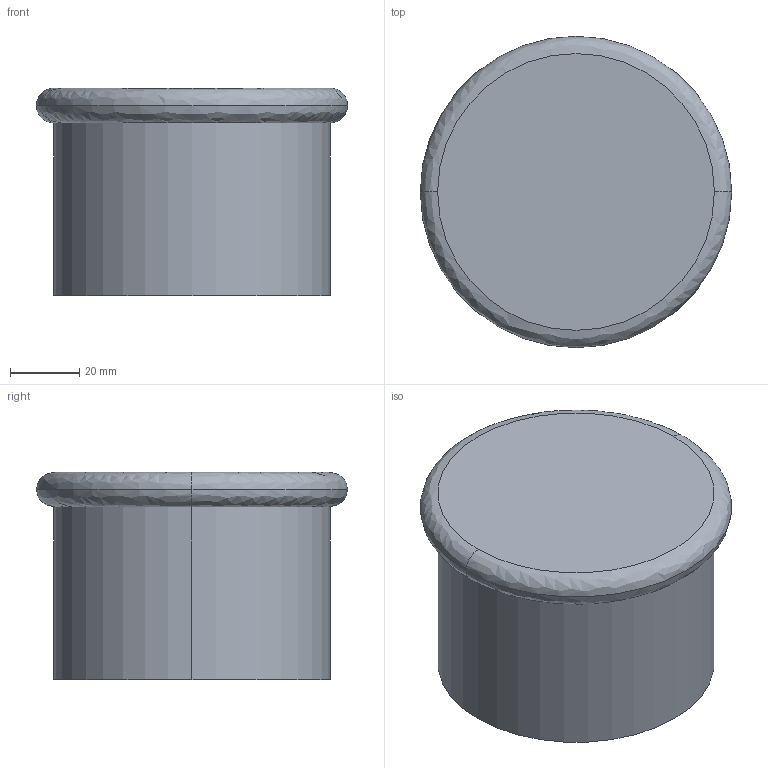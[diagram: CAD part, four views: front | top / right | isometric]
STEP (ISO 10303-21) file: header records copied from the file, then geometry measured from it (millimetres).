
FILE_DESCRIPTION (( 'STEP AP214' ), '1' );
FILE_NAME ('Gewuerzstreuer_68319.STEP', '2010-10-27T05:39:10', ( 'grass' ), ( '' ), 'SwSTEP 2.0', 'SolidWorks 2010', '' );
FILE_SCHEMA (( 'AUTOMOTIVE_DESIGN' ));
Length unit declared in the file: millimetre
Products named in the file (1): Gewuerzstreuer_68319
Bounding box: 90 x 90 x 60 mm (x, y, z)
Volume: 311986.1 mm3; surface area: 26881.5 mm2
Topology: 1 solids, 1 shells, 8 faces, 14 edges, 8 vertices
Faces by surface type: bspline 4, cylinder 2, plane 2
Entity records: 364 total; most frequent: CARTESIAN_POINT 91, DIRECTION 36, ORIENTED_EDGE 28, AXIS2_PLACEMENT_3D 17, EDGE_CURVE 14, CIRCLE 12, UNCERTAINTY_MEASURE_WITH_UNIT 11, MECHANICAL_DESIGN_GEOMETRIC_PRESENTATION_REPRESENTATION 10
